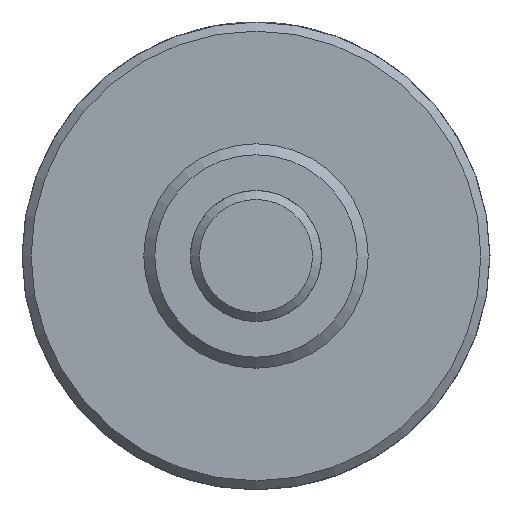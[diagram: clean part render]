
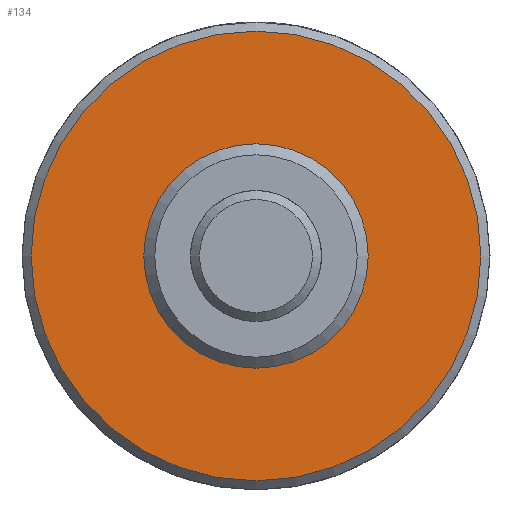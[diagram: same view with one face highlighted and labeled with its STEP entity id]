
A CAD part, left-side view. The second image highlights one B-rep face of the part: STEP entity #134.
In plain terms, the highlighted planar face has unit normal (-1, 0, 0).
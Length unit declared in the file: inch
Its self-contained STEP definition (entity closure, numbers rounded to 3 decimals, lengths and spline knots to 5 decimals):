
#134 = ADVANCED_FACE( '', ( #288, #289 ), #290, .F. );
#288 = FACE_OUTER_BOUND( '', #484, .T. );
#289 = FACE_BOUND( '', #485, .T. );
#290 = PLANE( '', #486 );
#484 = EDGE_LOOP( '', ( #697 ) );
#485 = EDGE_LOOP( '', ( #698 ) );
#486 = AXIS2_PLACEMENT_3D( '', #699, #700, #701 );
#697 = ORIENTED_EDGE( '', *, *, #1008, .F. );
#698 = ORIENTED_EDGE( '', *, *, #997, .T. );
#699 = CARTESIAN_POINT( '', ( 0.625, 0.3745, 0. ) );
#700 = DIRECTION( '', ( 1., 0., 0. ) );
#701 = DIRECTION( '', ( 0., 0., -1. ) );
#997 = EDGE_CURVE( '', #1136, #1136, #1137, .T. );
#1008 = EDGE_CURVE( '', #1154, #1154, #1155, .T. );
#1136 = VERTEX_POINT( '', #1316 );
#1137 = CIRCLE( '', #1317, 0.3745 );
#1154 = VERTEX_POINT( '', #1409 );
#1155 = CIRCLE( '', #1410, 0.7515 );
#1316 = CARTESIAN_POINT( '', ( 0.625, 0., -0.3745 ) );
#1317 = AXIS2_PLACEMENT_3D( '', #1599, #1600, #1601 );
#1409 = CARTESIAN_POINT( '', ( 0.625, 0., -0.7515 ) );
#1410 = AXIS2_PLACEMENT_3D( '', #1615, #1616, #1617 );
#1599 = CARTESIAN_POINT( '', ( 0.625, 0., 0. ) );
#1600 = DIRECTION( '', ( 1., 0., 0. ) );
#1601 = DIRECTION( '', ( 0., 0., -1. ) );
#1615 = CARTESIAN_POINT( '', ( 0.625, 0., 0. ) );
#1616 = DIRECTION( '', ( 1., 0., 0. ) );
#1617 = DIRECTION( '', ( 0., 0., -1. ) );
